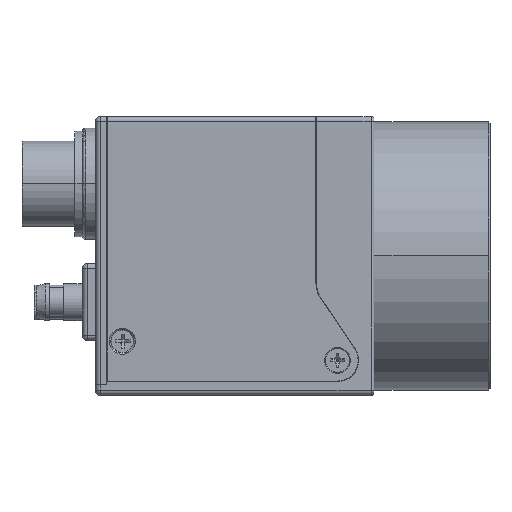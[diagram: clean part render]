
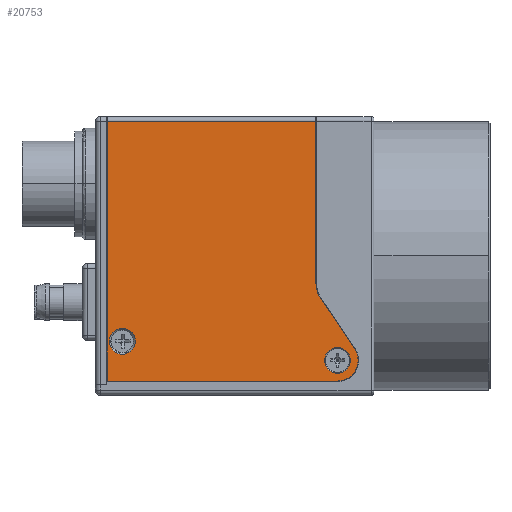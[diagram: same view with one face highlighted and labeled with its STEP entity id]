
A CAD part, top view. The second image highlights one B-rep face of the part: STEP entity #20753.
In plain terms, the highlighted planar face has unit normal (0, 0, 1) as drawn and (1, 0, 0) by its records, which use the part's own axes.
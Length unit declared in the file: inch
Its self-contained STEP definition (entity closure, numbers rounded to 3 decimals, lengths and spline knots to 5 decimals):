
#19774=DIRECTION('',(0.,-1.,0.));
#19775=VECTOR('',#19774,1.06496);
#19776=CARTESIAN_POINT('',(0.57087,1.06693,
0.42815));
#19777=LINE('',#19776,#19775);
#19782=DIRECTION('',(0.,0.,1.));
#19783=VECTOR('',#19782,0.94291);
#19784=CARTESIAN_POINT('',(0.57087,0.00197,
-0.51476));
#19785=LINE('',#19784,#19783);
#19786=DIRECTION('',(0.,-1.,0.));
#19787=VECTOR('',#19786,0.66076);
#19788=CARTESIAN_POINT('',(0.57087,1.06693,
-0.42618));
#19789=LINE('',#19788,#19787);
#19790=CARTESIAN_POINT('',(0.57087,0.40617,
-0.54626));
#19791=DIRECTION('',(1.,0.,0.));
#19792=DIRECTION('',(0.,0.,1.));
#19793=AXIS2_PLACEMENT_3D('',#19790,#19791,#19792);
#19795=DIRECTION('',(0.,-0.829,-0.559));
#19796=VECTOR('',#19795,0.24738);
#19797=CARTESIAN_POINT('',(0.57087,0.33905,
-0.44669));
#19798=LINE('',#19797,#19796);
#19799=CARTESIAN_POINT('',(0.57087,0.08661,
-0.51476));
#19800=DIRECTION('',(-1.,0.,0.));
#19801=DIRECTION('',(0.,0.559,-0.829));
#19802=AXIS2_PLACEMENT_3D('',#19799,#19800,#19801);
#19804=CARTESIAN_POINT('',(0.57087,0.08661,
-0.51476));
#19805=DIRECTION('',(-1.,0.,0.));
#19806=DIRECTION('',(0.,0.,-1.));
#19807=AXIS2_PLACEMENT_3D('',#19804,#19805,#19806);
#19809=CARTESIAN_POINT('',(0.57087,0.16535,
0.36713));
#19810=DIRECTION('',(1.,0.,0.));
#19811=DIRECTION('',(0.,0.,1.));
#19812=AXIS2_PLACEMENT_3D('',#19809,#19810,#19811);
#19814=CARTESIAN_POINT('',(0.57087,0.16535,
0.36713));
#19815=DIRECTION('',(1.,0.,0.));
#19816=DIRECTION('',(0.,0.,-1.));
#19817=AXIS2_PLACEMENT_3D('',#19814,#19815,#19816);
#19819=CARTESIAN_POINT('',(0.57087,0.08661,
-0.51476));
#19820=DIRECTION('',(1.,0.,0.));
#19821=DIRECTION('',(0.,0.,1.));
#19822=AXIS2_PLACEMENT_3D('',#19819,#19820,#19821);
#19824=CARTESIAN_POINT('',(0.57087,0.08661,
-0.51476));
#19825=DIRECTION('',(1.,0.,0.));
#19826=DIRECTION('',(0.,0.,-1.));
#19827=AXIS2_PLACEMENT_3D('',#19824,#19825,#19826);
#19829=DIRECTION('',(0.,0.,1.));
#19830=VECTOR('',#19829,0.85433);
#19831=CARTESIAN_POINT('',(0.57087,1.06693,
-0.42618));
#19832=LINE('',#19831,#19830);
#20448=CARTESIAN_POINT('',(0.57087,0.00197,
0.42815));
#20450=VERTEX_POINT('',#20448);
#20485=CARTESIAN_POINT('',(0.57087,1.06693,
0.42815));
#20486=VERTEX_POINT('',#20485);
#20487=CARTESIAN_POINT('',(0.57087,0.00197,
-0.51476));
#20488=VERTEX_POINT('',#20487);
#20491=CARTESIAN_POINT('',(0.57087,1.06693,
-0.42618));
#20492=VERTEX_POINT('',#20491);
#20493=CARTESIAN_POINT('',(0.57087,0.40617,
-0.42618));
#20494=VERTEX_POINT('',#20493);
#20495=CARTESIAN_POINT('',(0.57087,0.33905,
-0.44669));
#20496=VERTEX_POINT('',#20495);
#20497=CARTESIAN_POINT('',(0.57087,0.13392,
-0.58495));
#20498=VERTEX_POINT('',#20497);
#20499=CARTESIAN_POINT('',(0.57087,0.08661,
-0.59941));
#20500=VERTEX_POINT('',#20499);
#20501=CARTESIAN_POINT('',(0.57087,0.16535,
0.42028));
#20502=CARTESIAN_POINT('',(0.57087,0.16535,
0.31398));
#20503=VERTEX_POINT('',#20501);
#20504=VERTEX_POINT('',#20502);
#20505=CARTESIAN_POINT('',(0.57087,0.08661,
-0.46161));
#20506=CARTESIAN_POINT('',(0.57087,0.08661,
-0.56791));
#20507=VERTEX_POINT('',#20505);
#20508=VERTEX_POINT('',#20506);
#20720=CARTESIAN_POINT('',(0.57087,0.,-0.42815));
#20721=DIRECTION('',(1.,0.,0.));
#20722=DIRECTION('',(0.,1.,0.));
#20723=AXIS2_PLACEMENT_3D('',#20720,#20721,#20722);
#20724=PLANE('',#20723);
#20725=ORIENTED_EDGE('',*,*,#20710,.T.);
#20726=ORIENTED_EDGE('',*,*,#20700,.F.);
#20728=ORIENTED_EDGE('',*,*,#20727,.F.);
#20730=ORIENTED_EDGE('',*,*,#20729,.T.);
#20732=ORIENTED_EDGE('',*,*,#20731,.T.);
#20734=ORIENTED_EDGE('',*,*,#20733,.T.);
#20736=ORIENTED_EDGE('',*,*,#20735,.T.);
#20738=ORIENTED_EDGE('',*,*,#20737,.T.);
#20739=EDGE_LOOP('',(#20725,#20726,#20728,#20730,#20732,#20734,#20736,#20738));
#20740=FACE_OUTER_BOUND('',#20739,.F.);
#20742=ORIENTED_EDGE('',*,*,#20741,.T.);
#20744=ORIENTED_EDGE('',*,*,#20743,.T.);
#20745=EDGE_LOOP('',(#20742,#20744));
#20746=FACE_BOUND('',#20745,.F.);
#20748=ORIENTED_EDGE('',*,*,#20747,.T.);
#20750=ORIENTED_EDGE('',*,*,#20749,.T.);
#20751=EDGE_LOOP('',(#20748,#20750));
#20752=FACE_BOUND('',#20751,.F.);
#20753=ADVANCED_FACE('',(#20740,#20746,#20752),#20724,.T.);
#19794=CIRCLE('',#19793,0.12008);
#19803=CIRCLE('',#19802,0.08465);
#19808=CIRCLE('',#19807,0.08465);
#19813=CIRCLE('',#19812,0.05315);
#19818=CIRCLE('',#19817,0.05315);
#19823=CIRCLE('',#19822,0.05315);
#19828=CIRCLE('',#19827,0.05315);
#20700=EDGE_CURVE('',#20486,#20450,#19777,.T.);
#20710=EDGE_CURVE('',#20488,#20450,#19785,.T.);
#20727=EDGE_CURVE('',#20492,#20486,#19832,.T.);
#20729=EDGE_CURVE('',#20492,#20494,#19789,.T.);
#20731=EDGE_CURVE('',#20494,#20496,#19794,.T.);
#20733=EDGE_CURVE('',#20496,#20498,#19798,.T.);
#20735=EDGE_CURVE('',#20498,#20500,#19803,.T.);
#20737=EDGE_CURVE('',#20500,#20488,#19808,.T.);
#20741=EDGE_CURVE('',#20503,#20504,#19813,.T.);
#20743=EDGE_CURVE('',#20504,#20503,#19818,.T.);
#20747=EDGE_CURVE('',#20507,#20508,#19823,.T.);
#20749=EDGE_CURVE('',#20508,#20507,#19828,.T.);
